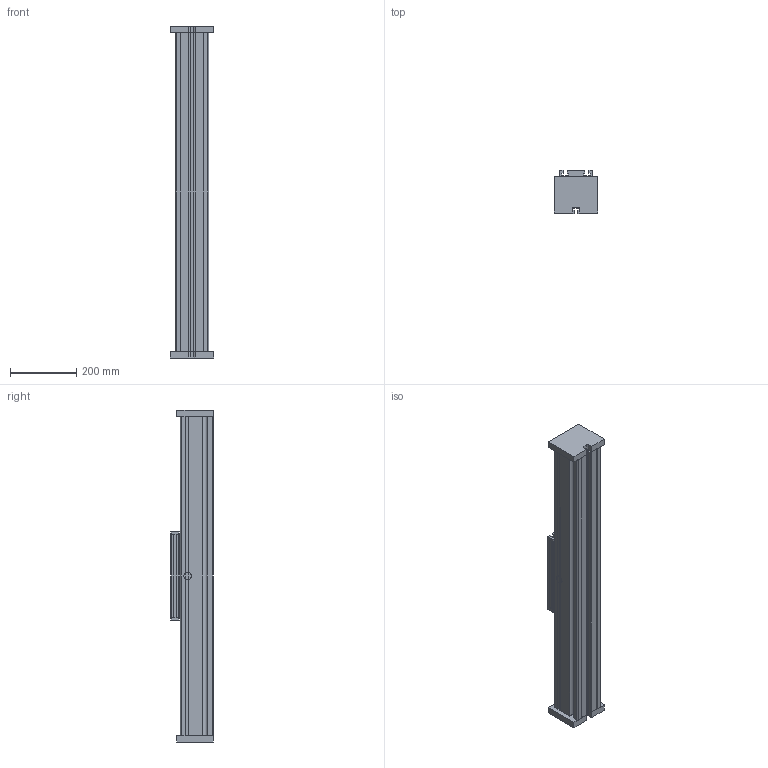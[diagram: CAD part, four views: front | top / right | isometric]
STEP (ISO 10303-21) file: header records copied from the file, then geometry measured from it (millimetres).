
FILE_DESCRIPTION (( 'STEP AP214' ), '1' );
FILE_NAME ('QSR100.STEP', '2022-06-29T12:02:47', ( '' ), ( '' ), 'SwSTEP 2.0', 'SolidWorks 2020', '' );
FILE_SCHEMA (( 'AUTOMOTIVE_DESIGN' ));
Length unit declared in the file: millimetre
Products named in the file (4): carriage^QSR100_carriage version 0; end plate^QSR100; QSR100; profile^QSR100
Assembly tree (4 placements, depth 2):
  QSR100
    profile^QSR100
    carriage^QSR100_carriage version 0
    end plate^QSR100  x2
Bounding box: 130 x 129 x 1000 mm (x, y, z)
Volume: 7593522.7 mm3; surface area: 798204.2 mm2
Topology: 8 solids, 8 shells, 205 faces, 551 edges, 362 vertices
Faces by surface type: plane 156, cylinder 41, torus 8
Entity records: 6246 total; most frequent: CARTESIAN_POINT 1063, ORIENTED_EDGE 1042, DIRECTION 1007, EDGE_CURVE 521, LINE 435, VECTOR 435, VERTEX_POINT 342, AXIS2_PLACEMENT_3D 286
